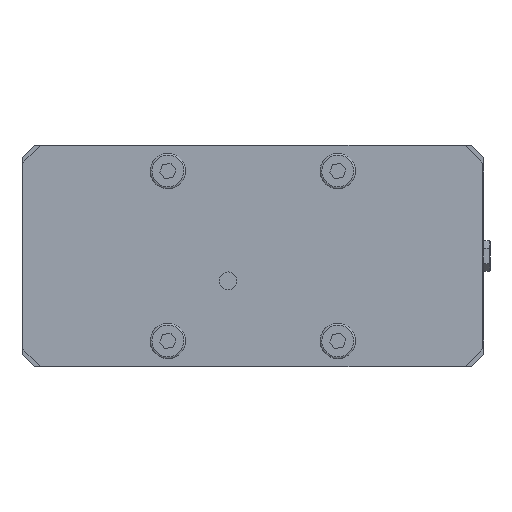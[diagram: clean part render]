
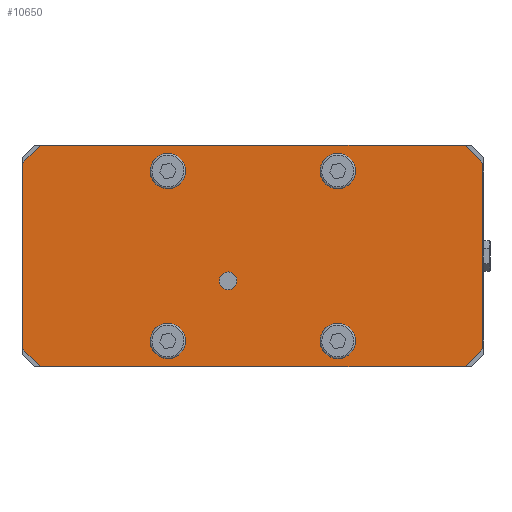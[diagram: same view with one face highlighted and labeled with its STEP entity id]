
A CAD part, front view. The second image highlights one B-rep face of the part: STEP entity #10650.
In plain terms, the highlighted planar face has unit normal (0, -1, 0).
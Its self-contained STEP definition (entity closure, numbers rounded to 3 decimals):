
#311 = EDGE_CURVE ( 'NONE', #21987, #27996, #40395, .T. ) ;
#453 = CARTESIAN_POINT ( 'NONE',  ( -120., 0., -62.5 ) ) ;
#935 = FACE_BOUND ( 'NONE', #18173, .T. ) ;
#1077 = DIRECTION ( 'NONE',  ( 0.707, 0., 0.707 ) ) ;
#1138 = FACE_BOUND ( 'NONE', #36817, .T. ) ;
#1315 = ORIENTED_EDGE ( 'NONE', *, *, #22373, .T. ) ;
#1936 = CIRCLE ( 'NONE', #36718, 8.5 ) ;
#2225 = EDGE_CURVE ( 'NONE', #11709, #11709, #1936, .T. ) ;
#2926 = DIRECTION ( 'NONE',  ( 0., 1., 0. ) ) ;
#3372 = VERTEX_POINT ( 'NONE', #12223 ) ;
#3467 = VECTOR ( 'NONE', #24836, 1000. ) ;
#3972 = DIRECTION ( 'NONE',  ( 0.707, 0., -0.707 ) ) ;
#4034 = VERTEX_POINT ( 'NONE', #37970 ) ;
#4238 = ORIENTED_EDGE ( 'NONE', *, *, #27307, .F. ) ;
#4399 = CARTESIAN_POINT ( 'NONE',  ( 130., 0., -52.5 ) ) ;
#4412 = EDGE_CURVE ( 'NONE', #34401, #3372, #42306, .T. ) ;
#4706 = CARTESIAN_POINT ( 'NONE',  ( 130., 0., -62.5 ) ) ;
#4933 = LINE ( 'NONE', #4706, #6499 ) ;
#5074 = ORIENTED_EDGE ( 'NONE', *, *, #23112, .T. ) ;
#5867 = VERTEX_POINT ( 'NONE', #22350 ) ;
#6033 = CARTESIAN_POINT ( 'NONE',  ( 48., 0., -48. ) ) ;
#6457 = VERTEX_POINT ( 'NONE', #37429 ) ;
#6499 = VECTOR ( 'NONE', #35877, 1000. ) ;
#8681 = ORIENTED_EDGE ( 'NONE', *, *, #15522, .T. ) ;
#8865 = LINE ( 'NONE', #22459, #18356 ) ;
#9488 = DIRECTION ( 'NONE',  ( -1., 0., 0. ) ) ;
#10029 = DIRECTION ( 'NONE',  ( 0., 0., 1. ) ) ;
#10650 = ADVANCED_FACE ( 'NONE', ( #28086, #17623, #1138, #31823, #935, #38472 ), #25170, .F. ) ;
#11159 = DIRECTION ( 'NONE',  ( 0., 0., 1. ) ) ;
#11312 = VECTOR ( 'NONE', #34954, 1000. ) ;
#11709 = VERTEX_POINT ( 'NONE', #15037 ) ;
#11856 = ORIENTED_EDGE ( 'NONE', *, *, #27570, .T. ) ;
#12024 = DIRECTION ( 'NONE',  ( 0., 1., 0. ) ) ;
#12223 = CARTESIAN_POINT ( 'NONE',  ( -120., 0., 62.5 ) ) ;
#14694 = AXIS2_PLACEMENT_3D ( 'NONE', #39662, #40094, #43822 ) ;
#14798 = ORIENTED_EDGE ( 'NONE', *, *, #26132, .F. ) ;
#15037 = CARTESIAN_POINT ( 'NONE',  ( 48., 0., -39.5 ) ) ;
#15055 = EDGE_LOOP ( 'NONE', ( #8681 ) ) ;
#15522 = EDGE_CURVE ( 'NONE', #5867, #5867, #24031, .T. ) ;
#15581 = AXIS2_PLACEMENT_3D ( 'NONE', #34496, #35397, #11159 ) ;
#15586 = EDGE_CURVE ( 'NONE', #3372, #32946, #18266, .T. ) ;
#15871 = VECTOR ( 'NONE', #1077, 1000. ) ;
#16118 = CARTESIAN_POINT ( 'NONE',  ( -120., 0., -62.5 ) ) ;
#17623 = FACE_BOUND ( 'NONE', #43324, .T. ) ;
#17900 = VERTEX_POINT ( 'NONE', #35004 ) ;
#18100 = CARTESIAN_POINT ( 'NONE',  ( -48., 0., -39.5 ) ) ;
#18158 = CARTESIAN_POINT ( 'NONE',  ( 130., 0., 52.5 ) ) ;
#18173 = EDGE_LOOP ( 'NONE', ( #4238 ) ) ;
#18251 = VECTOR ( 'NONE', #3972, 1000. ) ;
#18266 = LINE ( 'NONE', #31817, #11312 ) ;
#18356 = VECTOR ( 'NONE', #32480, 1000. ) ;
#19658 = DIRECTION ( 'NONE',  ( 0., 1., 0. ) ) ;
#19744 = DIRECTION ( 'NONE',  ( 0., -1., 0. ) ) ;
#20178 = CARTESIAN_POINT ( 'NONE',  ( 120., 0., 62.5 ) ) ;
#20214 = CARTESIAN_POINT ( 'NONE',  ( 130., 0., -52.5 ) ) ;
#20606 = DIRECTION ( 'NONE',  ( 0., 0., -1. ) ) ;
#20861 = ORIENTED_EDGE ( 'NONE', *, *, #33180, .T. ) ;
#21542 = EDGE_CURVE ( 'NONE', #21987, #37041, #24885, .T. ) ;
#21634 = VERTEX_POINT ( 'NONE', #18100 ) ;
#21987 = VERTEX_POINT ( 'NONE', #34949 ) ;
#22350 = CARTESIAN_POINT ( 'NONE',  ( -48., 0., 56.5 ) ) ;
#22373 = EDGE_CURVE ( 'NONE', #38296, #38296, #42131, .T. ) ;
#22459 = CARTESIAN_POINT ( 'NONE',  ( -130., 0., -62.5 ) ) ;
#23041 = CARTESIAN_POINT ( 'NONE',  ( -14., 0., -14. ) ) ;
#23112 = EDGE_CURVE ( 'NONE', #4034, #27996, #30926, .T. ) ;
#23696 = EDGE_LOOP ( 'NONE', ( #32301 ) ) ;
#24031 = CIRCLE ( 'NONE', #24779, 8.5 ) ;
#24611 = LINE ( 'NONE', #18158, #3467 ) ;
#24779 = AXIS2_PLACEMENT_3D ( 'NONE', #40488, #2926, #10029 ) ;
#24836 = DIRECTION ( 'NONE',  ( -0.707, 0., 0.707 ) ) ;
#24885 = LINE ( 'NONE', #4399, #15871 ) ;
#24920 = CARTESIAN_POINT ( 'NONE',  ( 48., 0., 48. ) ) ;
#25170 = PLANE ( 'NONE',  #15581 ) ;
#25419 = EDGE_LOOP ( 'NONE', ( #31489, #32615, #36128, #5074, #36757, #29603, #14798, #20861 ) ) ;
#26132 = EDGE_CURVE ( 'NONE', #6457, #37041, #4933, .T. ) ;
#27124 = CARTESIAN_POINT ( 'NONE',  ( 130., 0., -62.5 ) ) ;
#27150 = VECTOR ( 'NONE', #9488, 1000. ) ;
#27307 = EDGE_CURVE ( 'NONE', #17900, #17900, #43683, .T. ) ;
#27570 = EDGE_CURVE ( 'NONE', #21634, #21634, #33838, .T. ) ;
#27996 = VERTEX_POINT ( 'NONE', #16118 ) ;
#28086 = FACE_BOUND ( 'NONE', #23696, .T. ) ;
#29603 = ORIENTED_EDGE ( 'NONE', *, *, #21542, .T. ) ;
#30926 = LINE ( 'NONE', #453, #18251 ) ;
#31489 = ORIENTED_EDGE ( 'NONE', *, *, #4412, .T. ) ;
#31817 = CARTESIAN_POINT ( 'NONE',  ( -120., 0., 62.5 ) ) ;
#31823 = FACE_BOUND ( 'NONE', #15055, .T. ) ;
#32257 = AXIS2_PLACEMENT_3D ( 'NONE', #24920, #12024, #43289 ) ;
#32301 = ORIENTED_EDGE ( 'NONE', *, *, #2225, .T. ) ;
#32480 = DIRECTION ( 'NONE',  ( 0., 0., -1. ) ) ;
#32615 = ORIENTED_EDGE ( 'NONE', *, *, #15586, .T. ) ;
#32946 = VERTEX_POINT ( 'NONE', #42385 ) ;
#33180 = EDGE_CURVE ( 'NONE', #6457, #34401, #24611, .T. ) ;
#33838 = CIRCLE ( 'NONE', #14694, 8.5 ) ;
#33896 = EDGE_CURVE ( 'NONE', #32946, #4034, #8865, .T. ) ;
#34401 = VERTEX_POINT ( 'NONE', #20178 ) ;
#34496 = CARTESIAN_POINT ( 'NONE',  ( 130., 0., -62.5 ) ) ;
#34949 = CARTESIAN_POINT ( 'NONE',  ( 120., 0., -62.5 ) ) ;
#34954 = DIRECTION ( 'NONE',  ( -0.707, 0., -0.707 ) ) ;
#35004 = CARTESIAN_POINT ( 'NONE',  ( -14., 0., -19. ) ) ;
#35397 = DIRECTION ( 'NONE',  ( 0., 1., 0. ) ) ;
#35718 = DIRECTION ( 'NONE',  ( -1., 0., 0. ) ) ;
#35877 = DIRECTION ( 'NONE',  ( 0., 0., -1. ) ) ;
#36128 = ORIENTED_EDGE ( 'NONE', *, *, #33896, .T. ) ;
#36718 = AXIS2_PLACEMENT_3D ( 'NONE', #6033, #19658, #40056 ) ;
#36757 = ORIENTED_EDGE ( 'NONE', *, *, #311, .F. ) ;
#36817 = EDGE_LOOP ( 'NONE', ( #1315 ) ) ;
#37041 = VERTEX_POINT ( 'NONE', #20214 ) ;
#37429 = CARTESIAN_POINT ( 'NONE',  ( 130., 0., 52.5 ) ) ;
#37970 = CARTESIAN_POINT ( 'NONE',  ( -130., 0., -52.5 ) ) ;
#38296 = VERTEX_POINT ( 'NONE', #41426 ) ;
#38472 = FACE_OUTER_BOUND ( 'NONE', #25419, .T. ) ;
#39475 = AXIS2_PLACEMENT_3D ( 'NONE', #23041, #19744, #20606 ) ;
#39662 = CARTESIAN_POINT ( 'NONE',  ( -48., 0., -48. ) ) ;
#40056 = DIRECTION ( 'NONE',  ( 0., 0., 1. ) ) ;
#40094 = DIRECTION ( 'NONE',  ( 0., 1., 0. ) ) ;
#40395 = LINE ( 'NONE', #27124, #27150 ) ;
#40488 = CARTESIAN_POINT ( 'NONE',  ( -48., 0., 48. ) ) ;
#41426 = CARTESIAN_POINT ( 'NONE',  ( 48., 0., 56.5 ) ) ;
#41503 = VECTOR ( 'NONE', #35718, 1000. ) ;
#42131 = CIRCLE ( 'NONE', #32257, 8.5 ) ;
#42306 = LINE ( 'NONE', #42764, #41503 ) ;
#42385 = CARTESIAN_POINT ( 'NONE',  ( -130., 0., 52.5 ) ) ;
#42764 = CARTESIAN_POINT ( 'NONE',  ( 130., 0., 62.5 ) ) ;
#43289 = DIRECTION ( 'NONE',  ( 0., 0., 1. ) ) ;
#43324 = EDGE_LOOP ( 'NONE', ( #11856 ) ) ;
#43683 = CIRCLE ( 'NONE', #39475, 5. ) ;
#43822 = DIRECTION ( 'NONE',  ( 0., 0., 1. ) ) ;
